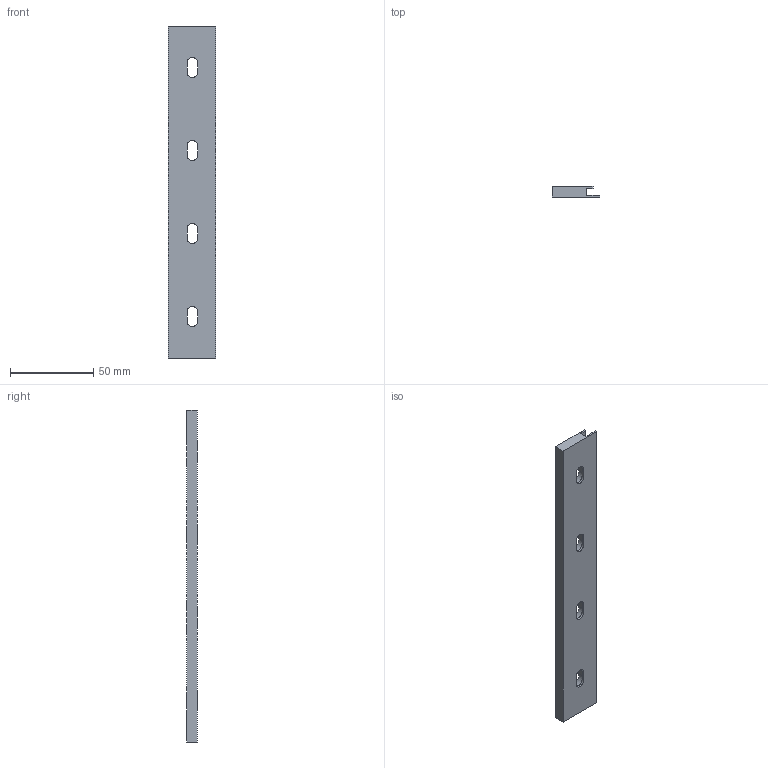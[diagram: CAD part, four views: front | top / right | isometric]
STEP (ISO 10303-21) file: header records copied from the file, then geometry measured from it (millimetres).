
FILE_DESCRIPTION((''),'2;1');
FILE_NAME('U-200','2022-07-26T',('Administrator'),(''),'CREO PARAMETRIC BY PTC INC, 2015290','CREO PARAMETRIC BY PTC INC, 2015290','');
FILE_SCHEMA(('CONFIG_CONTROL_DESIGN'));
Length unit declared in the file: millimetre
Products named in the file (1): U-200
Bounding box: 28.5 x 6.4 x 200 mm (x, y, z)
Volume: 25042.5 mm3; surface area: 16415.4 mm2
Topology: 1 solids, 1 shells, 47 faces, 123 edges, 82 vertices
Faces by surface type: plane 31, cylinder 16
Entity records: 1503 total; most frequent: CARTESIAN_POINT 252, DIRECTION 249, ORIENTED_EDGE 246, EDGE_CURVE 123, VECTOR 91, LINE 91, VERTEX_POINT 82, AXIS2_PLACEMENT_3D 79
